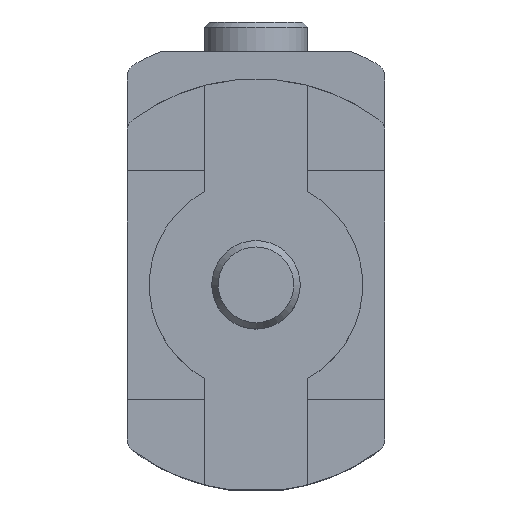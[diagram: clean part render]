
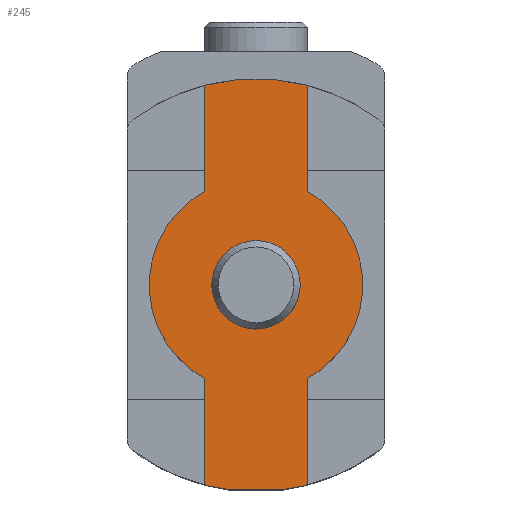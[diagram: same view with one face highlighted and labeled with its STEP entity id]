
A CAD part, top view. The second image highlights one B-rep face of the part: STEP entity #245.
In plain terms, the highlighted planar face has unit normal (0, 0, 1).
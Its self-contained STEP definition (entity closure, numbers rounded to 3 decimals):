
#9 = EDGE_CURVE ( 'NONE', #540, #842, #1641, .T. ) ;
#26 = CARTESIAN_POINT ( 'NONE',  ( -7., 12.698, 45.5 ) ) ;
#35 = CIRCLE ( 'NONE', #1151, 14.5 ) ;
#45 = DIRECTION ( 'NONE',  ( 0., -1., 0. ) ) ;
#54 = EDGE_CURVE ( 'NONE', #831, #888, #785, .T. ) ;
#150 = ORIENTED_EDGE ( 'NONE', *, *, #850, .F. ) ;
#151 = CARTESIAN_POINT ( 'NONE',  ( -3.733, -27.75, 45.5 ) ) ;
#199 = CARTESIAN_POINT ( 'NONE',  ( 7., 27.111, 45.5 ) ) ;
#237 = ORIENTED_EDGE ( 'NONE', *, *, #768, .T. ) ;
#245 = ADVANCED_FACE ( 'NONE', ( #483, #804 ), #351, .T. ) ;
#252 = VECTOR ( 'NONE', #1815, 1000. ) ;
#279 = CARTESIAN_POINT ( 'NONE',  ( 0., 0., 45.5 ) ) ;
#294 = CARTESIAN_POINT ( 'NONE',  ( 3.733, -27.75, 45.5 ) ) ;
#346 = LINE ( 'NONE', #616, #1734 ) ;
#351 = PLANE ( 'NONE',  #1274 ) ;
#364 = LINE ( 'NONE', #948, #1175 ) ;
#404 = AXIS2_PLACEMENT_3D ( 'NONE', #449, #1677, #1227 ) ;
#436 = CIRCLE ( 'NONE', #1342, 5. ) ;
#446 = ORIENTED_EDGE ( 'NONE', *, *, #1791, .T. ) ;
#449 = CARTESIAN_POINT ( 'NONE',  ( 0., 0., 45.5 ) ) ;
#483 = FACE_BOUND ( 'NONE', #1313, .T. ) ;
#487 = DIRECTION ( 'NONE',  ( 0., 0., 1. ) ) ;
#503 = CIRCLE ( 'NONE', #1310, 28. ) ;
#522 = CARTESIAN_POINT ( 'NONE',  ( -7., -27.111, 45.5 ) ) ;
#534 = ORIENTED_EDGE ( 'NONE', *, *, #54, .T. ) ;
#540 = VERTEX_POINT ( 'NONE', #294 ) ;
#579 = DIRECTION ( 'NONE',  ( 1., 0., 0. ) ) ;
#614 = EDGE_CURVE ( 'NONE', #861, #1255, #503, .T. ) ;
#616 = CARTESIAN_POINT ( 'NONE',  ( 7., -27.111, 45.5 ) ) ;
#632 = DIRECTION ( 'NONE',  ( 0., 0., 1. ) ) ;
#646 = VERTEX_POINT ( 'NONE', #1934 ) ;
#666 = ORIENTED_EDGE ( 'NONE', *, *, #1106, .T. ) ;
#708 = ORIENTED_EDGE ( 'NONE', *, *, #1469, .T. ) ;
#721 = CIRCLE ( 'NONE', #1799, 14.5 ) ;
#768 = EDGE_CURVE ( 'NONE', #1759, #646, #721, .T. ) ;
#783 = CARTESIAN_POINT ( 'NONE',  ( -7., 27.111, 45.5 ) ) ;
#785 = CIRCLE ( 'NONE', #404, 28. ) ;
#804 = FACE_OUTER_BOUND ( 'NONE', #1849, .T. ) ;
#831 = VERTEX_POINT ( 'NONE', #522 ) ;
#834 = CARTESIAN_POINT ( 'NONE',  ( 7., -27.111, 45.5 ) ) ;
#842 = VERTEX_POINT ( 'NONE', #834 ) ;
#845 = VERTEX_POINT ( 'NONE', #1741 ) ;
#850 = EDGE_CURVE ( 'NONE', #845, #845, #436, .T. ) ;
#861 = VERTEX_POINT ( 'NONE', #199 ) ;
#867 = EDGE_CURVE ( 'NONE', #646, #861, #1445, .T. ) ;
#888 = VERTEX_POINT ( 'NONE', #974 ) ;
#948 = CARTESIAN_POINT ( 'NONE',  ( -7., -27.111, 45.5 ) ) ;
#953 = DIRECTION ( 'NONE',  ( 1., 0., 0. ) ) ;
#959 = VERTEX_POINT ( 'NONE', #1909 ) ;
#967 = DIRECTION ( 'NONE',  ( 0., 1., 0. ) ) ;
#974 = CARTESIAN_POINT ( 'NONE',  ( -3.733, -27.75, 45.5 ) ) ;
#1040 = DIRECTION ( 'NONE',  ( 1., 0., 0. ) ) ;
#1088 = ORIENTED_EDGE ( 'NONE', *, *, #1629, .T. ) ;
#1106 = EDGE_CURVE ( 'NONE', #888, #540, #1388, .T. ) ;
#1130 = CARTESIAN_POINT ( 'NONE',  ( 7., 12.698, 45.5 ) ) ;
#1134 = DIRECTION ( 'NONE',  ( 1., 0., 0. ) ) ;
#1148 = AXIS2_PLACEMENT_3D ( 'NONE', #1847, #1867, #1386 ) ;
#1151 = AXIS2_PLACEMENT_3D ( 'NONE', #279, #1965, #1794 ) ;
#1175 = VECTOR ( 'NONE', #45, 1000. ) ;
#1192 = CARTESIAN_POINT ( 'NONE',  ( 0., 0., 45.5 ) ) ;
#1225 = ORIENTED_EDGE ( 'NONE', *, *, #9, .T. ) ;
#1227 = DIRECTION ( 'NONE',  ( 1., 0., 0. ) ) ;
#1255 = VERTEX_POINT ( 'NONE', #783 ) ;
#1274 = AXIS2_PLACEMENT_3D ( 'NONE', #1393, #632, #1134 ) ;
#1310 = AXIS2_PLACEMENT_3D ( 'NONE', #1348, #1812, #1040 ) ;
#1313 = EDGE_LOOP ( 'NONE', ( #150 ) ) ;
#1342 = AXIS2_PLACEMENT_3D ( 'NONE', #1879, #487, #953 ) ;
#1348 = CARTESIAN_POINT ( 'NONE',  ( 0., 0., 45.5 ) ) ;
#1350 = CARTESIAN_POINT ( 'NONE',  ( -7., 12.698, 45.5 ) ) ;
#1370 = LINE ( 'NONE', #1350, #252 ) ;
#1386 = DIRECTION ( 'NONE',  ( 1., 0., 0. ) ) ;
#1388 = LINE ( 'NONE', #151, #1640 ) ;
#1393 = CARTESIAN_POINT ( 'NONE',  ( 0., 0., 45.5 ) ) ;
#1413 = DIRECTION ( 'NONE',  ( 0., 1., 0. ) ) ;
#1428 = ORIENTED_EDGE ( 'NONE', *, *, #614, .T. ) ;
#1445 = LINE ( 'NONE', #1130, #1760 ) ;
#1469 = EDGE_CURVE ( 'NONE', #1899, #959, #35, .T. ) ;
#1542 = DIRECTION ( 'NONE',  ( 1., 0., 0. ) ) ;
#1615 = ORIENTED_EDGE ( 'NONE', *, *, #867, .T. ) ;
#1629 = EDGE_CURVE ( 'NONE', #959, #831, #364, .T. ) ;
#1640 = VECTOR ( 'NONE', #1542, 1000. ) ;
#1641 = CIRCLE ( 'NONE', #1148, 28. ) ;
#1677 = DIRECTION ( 'NONE',  ( 0., 0., 1. ) ) ;
#1734 = VECTOR ( 'NONE', #967, 1000. ) ;
#1741 = CARTESIAN_POINT ( 'NONE',  ( 5., 0., 45.5 ) ) ;
#1759 = VERTEX_POINT ( 'NONE', #1831 ) ;
#1760 = VECTOR ( 'NONE', #1413, 1000. ) ;
#1791 = EDGE_CURVE ( 'NONE', #1255, #1899, #1370, .T. ) ;
#1794 = DIRECTION ( 'NONE',  ( 1., 0., 0. ) ) ;
#1799 = AXIS2_PLACEMENT_3D ( 'NONE', #1192, #1811, #579 ) ;
#1811 = DIRECTION ( 'NONE',  ( 0., 0., 1. ) ) ;
#1812 = DIRECTION ( 'NONE',  ( 0., 0., 1. ) ) ;
#1815 = DIRECTION ( 'NONE',  ( 0., -1., 0. ) ) ;
#1831 = CARTESIAN_POINT ( 'NONE',  ( 7., -12.698, 45.5 ) ) ;
#1847 = CARTESIAN_POINT ( 'NONE',  ( 0., 0., 45.5 ) ) ;
#1849 = EDGE_LOOP ( 'NONE', ( #708, #1088, #534, #666, #1225, #1958, #237, #1615, #1428, #446 ) ) ;
#1867 = DIRECTION ( 'NONE',  ( 0., 0., 1. ) ) ;
#1879 = CARTESIAN_POINT ( 'NONE',  ( 0., 0., 45.5 ) ) ;
#1899 = VERTEX_POINT ( 'NONE', #26 ) ;
#1909 = CARTESIAN_POINT ( 'NONE',  ( -7., -12.698, 45.5 ) ) ;
#1934 = CARTESIAN_POINT ( 'NONE',  ( 7., 12.698, 45.5 ) ) ;
#1958 = ORIENTED_EDGE ( 'NONE', *, *, #1964, .T. ) ;
#1964 = EDGE_CURVE ( 'NONE', #842, #1759, #346, .T. ) ;
#1965 = DIRECTION ( 'NONE',  ( 0., 0., 1. ) ) ;
